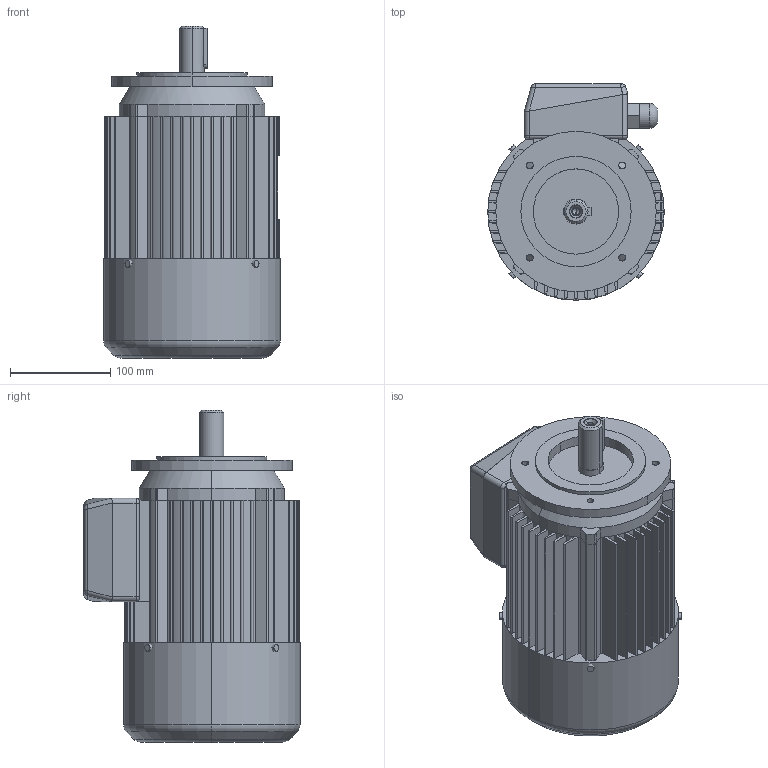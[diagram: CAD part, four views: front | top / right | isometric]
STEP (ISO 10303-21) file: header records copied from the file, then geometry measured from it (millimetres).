
FILE_DESCRIPTION (( 'STEP AP203' ), '1' );
FILE_NAME ('SKh 90L-B14-C1.STEP', '2010-02-09T12:25:52', ( 'INDUKTA' ), ( 'CANTONI MOTOR' ), 'SwSTEP 2.0', 'SolidWorks 2003064', '' );
FILE_SCHEMA (( 'CONFIG_CONTROL_DESIGN' ));
Length unit declared in the file: millimetre
Products named in the file (1): SKh 90L-B14-C1
Bounding box: 176 x 215.5 x 331 mm (x, y, z)
Volume: 6243530.9 mm3; surface area: 464737.1 mm2
Topology: 11 solids, 11 shells, 483 faces, 1293 edges, 836 vertices
Faces by surface type: plane 235, cylinder 178, bspline 42, cone 14, torus 10, sphere 4
Entity records: 18018 total; most frequent: CARTESIAN_POINT 5854, ORIENTED_EDGE 2574, DIRECTION 2486, EDGE_CURVE 1287, AXIS2_PLACEMENT_3D 852, VERTEX_POINT 836, LINE 782, VECTOR 782
